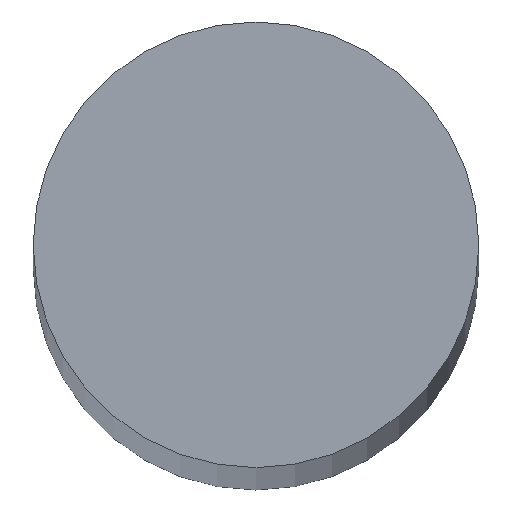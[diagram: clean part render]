
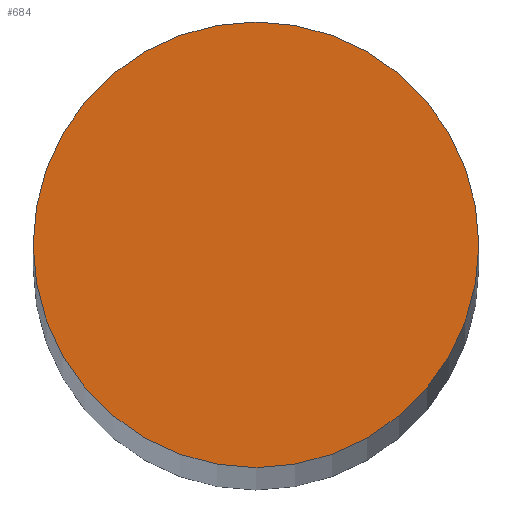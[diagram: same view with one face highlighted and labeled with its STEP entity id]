
A CAD part, top view. The second image highlights one B-rep face of the part: STEP entity #684.
In plain terms, the highlighted planar face has unit normal (0, 0, 1).
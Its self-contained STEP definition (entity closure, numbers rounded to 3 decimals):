
#31 = CYLINDRICAL_SURFACE('',#32,4.);
#32 = AXIS2_PLACEMENT_3D('',#33,#34,#35);
#33 = CARTESIAN_POINT('',(0.,0.,-115.));
#34 = DIRECTION('',(-0.,-0.,-1.));
#35 = DIRECTION('',(1.,0.,0.));
#56 = VERTEX_POINT('',#57);
#57 = CARTESIAN_POINT('',(4.,0.,115.));
#78 = EDGE_CURVE('',#56,#56,#79,.T.);
#79 = SURFACE_CURVE('',#80,(#85,#92),.PCURVE_S1.);
#80 = CIRCLE('',#81,4.);
#81 = AXIS2_PLACEMENT_3D('',#82,#83,#84);
#82 = CARTESIAN_POINT('',(0.,0.,115.));
#83 = DIRECTION('',(0.,0.,1.));
#84 = DIRECTION('',(1.,0.,0.));
#85 = PCURVE('',#31,#86);
#86 = DEFINITIONAL_REPRESENTATION('',(#87),#91);
#87 = LINE('',#88,#89);
#88 = CARTESIAN_POINT('',(-0.,-230.));
#89 = VECTOR('',#90,1.);
#90 = DIRECTION('',(-1.,0.));
#91 = ( GEOMETRIC_REPRESENTATION_CONTEXT(2) 
PARAMETRIC_REPRESENTATION_CONTEXT() REPRESENTATION_CONTEXT('2D SPACE',''
  ) );
#92 = PCURVE('',#93,#98);
#93 = PLANE('',#94);
#94 = AXIS2_PLACEMENT_3D('',#95,#96,#97);
#95 = CARTESIAN_POINT('',(0.,0.,115.));
#96 = DIRECTION('',(0.,0.,1.));
#97 = DIRECTION('',(1.,0.,-0.));
#98 = DEFINITIONAL_REPRESENTATION('',(#99),#103);
#99 = CIRCLE('',#100,4.);
#100 = AXIS2_PLACEMENT_2D('',#101,#102);
#101 = CARTESIAN_POINT('',(0.,0.));
#102 = DIRECTION('',(1.,0.));
#103 = ( GEOMETRIC_REPRESENTATION_CONTEXT(2) 
PARAMETRIC_REPRESENTATION_CONTEXT() REPRESENTATION_CONTEXT('2D SPACE',''
  ) );
#684 = ADVANCED_FACE('',(#685),#93,.T.);
#685 = FACE_BOUND('',#686,.T.);
#686 = EDGE_LOOP('',(#687));
#687 = ORIENTED_EDGE('',*,*,#78,.T.);
